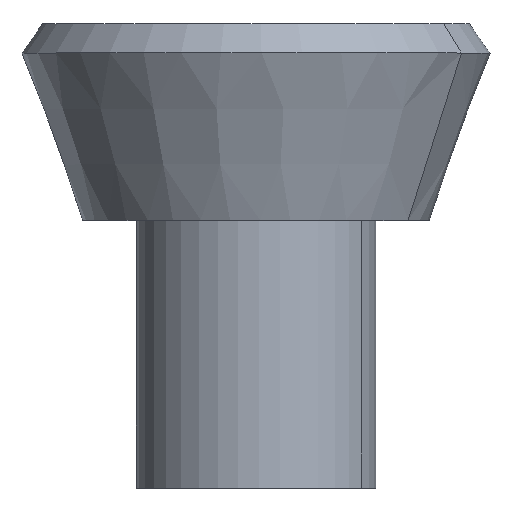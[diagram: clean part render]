
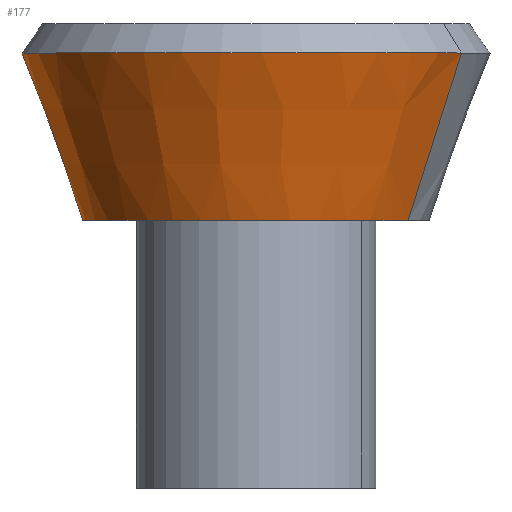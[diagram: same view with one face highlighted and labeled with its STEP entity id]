
A CAD part, top view. The second image highlights one B-rep face of the part: STEP entity #177.
In plain terms, the highlighted conical face has half-angle 20 degrees and reference radius 97 mm.
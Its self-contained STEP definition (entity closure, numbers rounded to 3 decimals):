
#114=CARTESIAN_POINT('Axis2P3D Location',(0.,0.,0.)) ;
#118=CARTESIAN_POINT('Vertex',(85.126,0.,46.504)) ;
#120=CARTESIAN_POINT('Vertex',(-85.126,0.,-46.504)) ;
#147=CARTESIAN_POINT('Axis2P3D Location',(0.,0.,0.)) ;
#152=CARTESIAN_POINT('Line Origine',(100.068,46.78,54.667)) ;
#156=CARTESIAN_POINT('Vertex',(115.01,93.561,62.83)) ;
#159=CARTESIAN_POINT('Axis2P3D Location',(0.,93.561,0.)) ;
#163=CARTESIAN_POINT('Vertex',(-115.01,93.561,-62.83)) ;
#166=CARTESIAN_POINT('Line Origine',(-100.068,46.78,-54.667)) ;
#115=DIRECTION('Axis2P3D Direction',(0.,-1.,0.)) ;
#148=DIRECTION('Axis2P3D Direction',(-0.,1.,-0.)) ;
#149=DIRECTION('Axis2P3D XDirection',(0.878,0.,0.479)) ;
#153=DIRECTION('Vector Direction',(0.3,0.94,0.164)) ;
#160=DIRECTION('Axis2P3D Direction',(0.,1.,-0.)) ;
#167=DIRECTION('Vector Direction',(-0.3,0.94,-0.164)) ;
#116=AXIS2_PLACEMENT_3D('Circle Axis2P3D',#114,#115,$) ;
#150=AXIS2_PLACEMENT_3D('Cone Axis2P3D',#147,#148,#149) ;
#161=AXIS2_PLACEMENT_3D('Circle Axis2P3D',#159,#160,$) ;
#172=ORIENTED_EDGE('',*,*,#122,.F.) ;
#173=ORIENTED_EDGE('',*,*,#158,.T.) ;
#174=ORIENTED_EDGE('',*,*,#165,.T.) ;
#175=ORIENTED_EDGE('',*,*,#170,.F.) ;
#154=VECTOR('Line Direction',#153,1.) ;
#168=VECTOR('Line Direction',#167,1.) ;
#177=ADVANCED_FACE('PartBody',(#176),#151,.T.) ;
#117=CIRCLE('generated circle',#116,97.) ;
#162=CIRCLE('generated circle',#161,131.053) ;
#151=CONICAL_SURFACE('Cone',#150,97.,0.349) ;
#122=EDGE_CURVE('',#119,#121,#117,.T.) ;
#158=EDGE_CURVE('',#119,#157,#155,.T.) ;
#165=EDGE_CURVE('',#157,#164,#162,.F.) ;
#170=EDGE_CURVE('',#121,#164,#169,.T.) ;
#171=EDGE_LOOP('',(#172,#173,#174,#175)) ;
#176=FACE_OUTER_BOUND('',#171,.T.) ;
#155=LINE('Line',#152,#154) ;
#169=LINE('Line',#166,#168) ;
#119=VERTEX_POINT('',#118) ;
#121=VERTEX_POINT('',#120) ;
#157=VERTEX_POINT('',#156) ;
#164=VERTEX_POINT('',#163) ;
